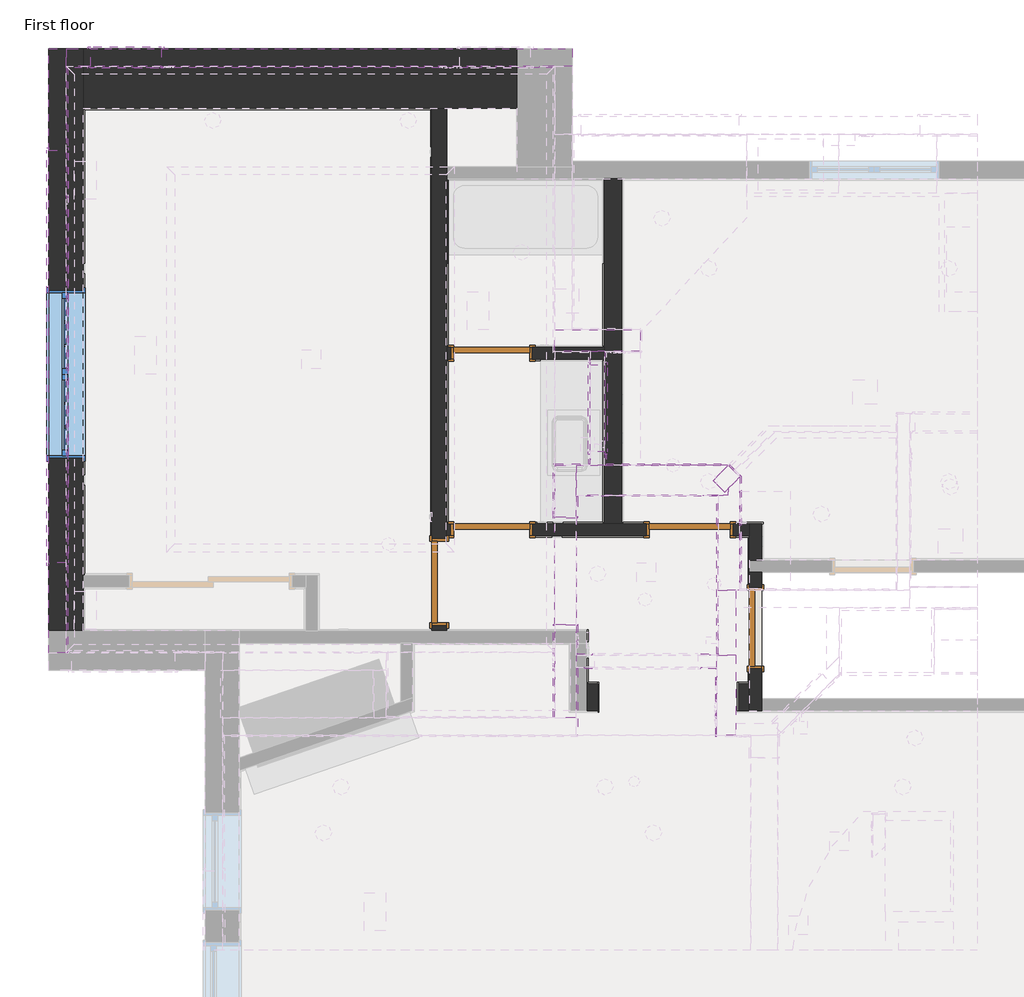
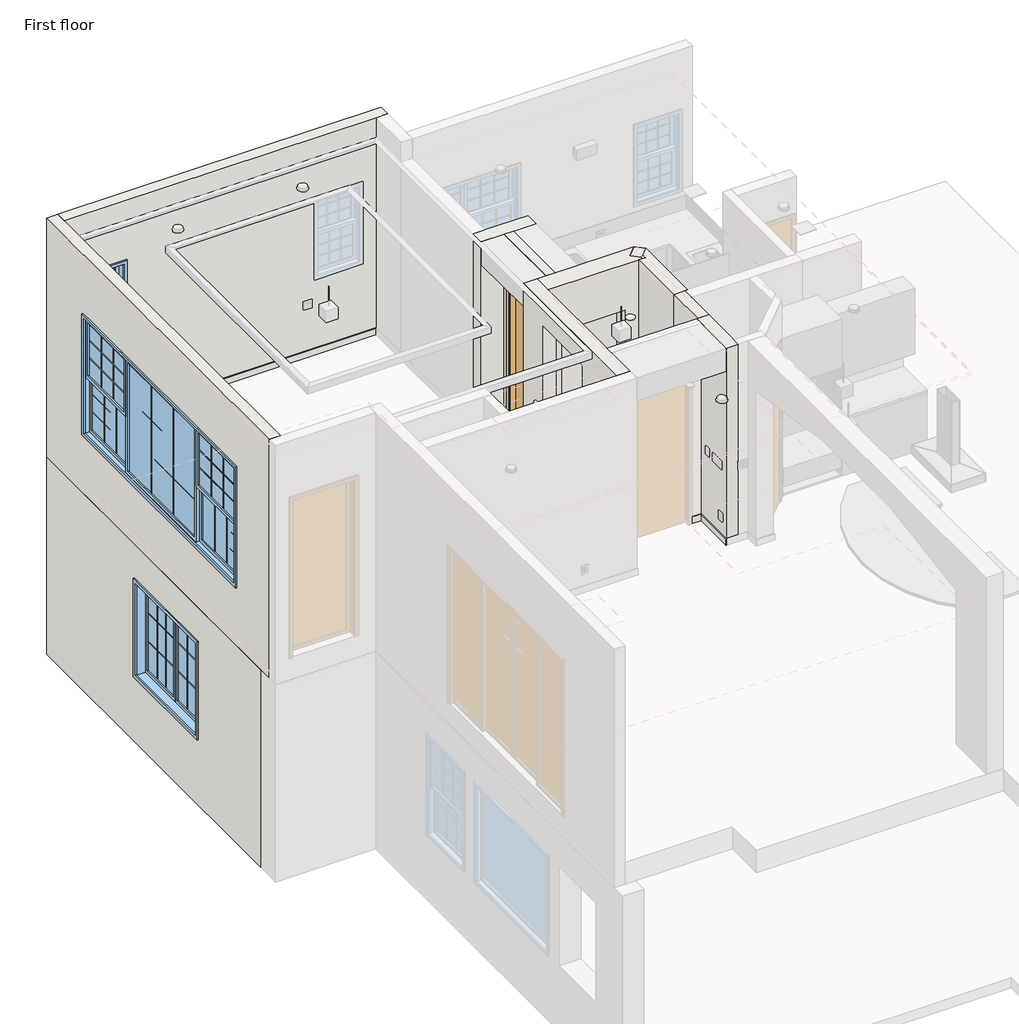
# One storey, part 2 of 14: 63 walls, 6 doors, 3 windows.
"""IFC4 building model written with IfcOpenShell, lengths in millimetres."""

from ifc_helpers import new_model, si_unit, frame, origin, origin_with_axes, place, context, project, spatial, polyline, outline, extrude, faceted_brep, transform, mapped, element, save
from components import door_ef8791e9, door_2bbe2976, door_43473639, door_a0381998, window_16cb1443, window_c90586ce, window_f9b8632c

model = new_model("IFC4")

# Units and contexts
model_context = context("Model", 3, world=origin())
ifc_project = project(units=[si_unit("LENGTHUNIT", "METRE", prefix="MILLI")], contexts=[model_context])

# Site, building, storey
site = spatial("IfcSite", under=ifc_project)
building = spatial("IfcBuilding", under=site)
storey = spatial("IfcBuildingStorey", under=building, Name="First floor", Elevation=0.0)

# Doors
placement = place(None, origin())
door_shape = door_ef8791e9(model_context)
element("IfcDoor", 1, ObjectType="C_Single Door : 2'-4\" X 8'-2\"", at=placement, inside=storey, context=model_context, shape_type="MappedRepresentation", body=[
    mapped(door_shape, transform((-44.45, 9855.2, 0.0), x_axis=(0.0, 1.0, 0.0), y_axis=(-1.0, 0.0, 0.0), z_axis=(0.0, 0.0, 1.0))),
])
element("IfcDoor", 2, ObjectType="C_Single Door : 2'-4\" X 8'-2\"", at=placement, inside=storey, context=model_context, shape_type="MappedRepresentation", body=[
    mapped(door_shape, transform((-2514.6, 10775.95, 0.0), x_axis=(1.0, 0.0, 0.0), y_axis=(0.0, 1.0, 0.0), z_axis=(0.0, 0.0, 1.0))),
])
element("IfcDoor", 3, ObjectType="C_Single Door : 2'-4\" X 8'-2\"", at=placement, inside=storey, context=model_context, shape_type="MappedRepresentation", body=[
    mapped(door_shape, transform((-2514.6, 12426.95, 0.0), x_axis=(1.0, 0.0, 0.0), y_axis=(0.0, 1.0, 0.0), z_axis=(0.0, 0.0, 1.0))),
])
door_2_shape = door_2bbe2976(model_context)
element("IfcDoor", 4, ObjectType="C_Single Door : 2'-6\" X 8'-0\"", at=placement, inside=storey, context=model_context, shape_type="MappedRepresentation", body=[
    mapped(door_2_shape, transform((-1524.0, 11912.4947939, 3251.2), x_axis=(0.0, 1.0, 0.0), y_axis=(-1.0, 0.0, 0.0), z_axis=(0.0, 0.0, 1.0))),
])
door_3_shape = door_43473639(model_context)
element("IfcDoor", 5, ObjectType="C_Single Door : 2'-6\" X 8'-2\"", at=placement, inside=storey, context=model_context, shape_type="MappedRepresentation", body=[
    mapped(door_3_shape, transform((-660.4, 10775.95, 0.0), x_axis=(1.0, 0.0, 0.0), y_axis=(0.0, 1.0, 0.0), z_axis=(0.0, 0.0, 1.0))),
])
door_4_shape = door_a0381998(model_context)
element("IfcDoor", 6, ObjectType="C_Single Door : 2'-6\" X 8'-2\"", at=placement, inside=storey, context=model_context, shape_type="MappedRepresentation", body=[
    mapped(door_4_shape, transform((-3003.55, 10287.0, 0.0), x_axis=(0.0, 1.0, 0.0), y_axis=(-1.0, 0.0, 0.0), z_axis=(0.0, 0.0, 1.0))),
])

# Walls
element("IfcWall", 7, ObjectType="Wall Border_T1", at=placement, inside=storey, context=model_context, shape_type="Brep", body=[
    faceted_brep([(-1511.3, 9067.8, 0.0), (-1511.3, 9347.2, 0.0), (-1511.3, 9347.2, 101.6), (-1511.3, 9067.8, 101.6), (-1524.0, 9067.8, 0.0), (-1524.0, 9067.8, 101.6), (-1524.0, 9080.5, 101.6), (-1524.0, 9334.5, 101.6), (-1524.0, 9347.2, 101.6), (-1524.0, 9347.2, 0.0), (-1524.0, 9334.5, 0.0), (-1524.0, 9080.5, 0.0)], [[[0, 1, 2, 3]], [[4, 5, 6, 7, 8, 9, 10, 11]], [[1, 0, 4, 11, 10, 9]], [[2, 1, 9, 8]], [[3, 2, 8, 7, 6, 5]], [[0, 3, 5, 4]]]),
])
element("IfcWall", 8, ObjectType="Wall Border_T1", at=placement, inside=storey, context=model_context, shape_type="SweptSolid", body=[
    extrude(outline(polyline([(-1612.9, 9347.2), (-1524.0, 9347.2), (-1524.0, 9334.5), (-1612.9, 9334.5), (-1612.9, 9347.2)])), origin_with_axes(), (0.0, 0.0, 1.0), 101.6),
])
element("IfcWall", 9, ObjectType="Wall Border_T1", at=placement, inside=storey, context=model_context, shape_type="Brep", body=[
    faceted_brep([(-1612.9, 9334.5, 0.0), (-1612.9, 9347.2, 0.0), (-1612.9, 9842.5, 0.0), (-1612.9, 9842.5, 101.6), (-1612.9, 9347.2, 101.6), (-1612.9, 9334.5, 101.6), (-1625.6, 9334.5, 0.0), (-1625.6, 9334.5, 101.6), (-1625.6, 9829.8, 101.6), (-1625.6, 9842.5, 101.6), (-1625.6, 9842.5, 0.0), (-1625.6, 9829.8, 0.0)], [[[0, 1, 2, 3, 4, 5]], [[6, 7, 8, 9, 10, 11]], [[2, 1, 0, 6, 11, 10]], [[3, 2, 10, 9]], [[5, 4, 3, 9, 8, 7]], [[0, 5, 7, 6]]]),
])
element("IfcWall", 10, ObjectType="Wall Border_T1", at=placement, inside=storey, context=model_context, shape_type="SweptSolid", body=[
    extrude(outline(polyline([(-114.3, 9347.2), (-114.3, 9448.8), (-101.6, 9448.8), (-101.6, 9347.2), (-114.3, 9347.2)])), origin_with_axes(), (0.0, 0.0, 1.0), 101.6),
])
element("IfcWall", 11, ObjectType="Wall Border_T1", at=placement, inside=storey, context=model_context, shape_type="Brep", body=[
    faceted_brep([(-101.6, 9347.2, 0.0), (-114.3, 9347.2, 0.0), (-203.2, 9347.2, 0.0), (-203.2, 9347.2, 101.6), (-114.3, 9347.2, 101.6), (-101.6, 9347.2, 101.6), (-101.6, 9334.5, 0.0), (-101.6, 9334.5, 101.6), (-203.2, 9334.5, 101.6), (-203.2, 9334.5, 0.0)], [[[0, 1, 2, 3, 4, 5]], [[6, 7, 8, 9]], [[2, 1, 0, 6, 9]], [[3, 2, 9, 8]], [[5, 4, 3, 8, 7]], [[0, 5, 7, 6]]]),
])
element("IfcWall", 12, ObjectType="Wall Border_T1", at=placement, inside=storey, context=model_context, shape_type="Brep", body=[
    faceted_brep([(-215.9, 9347.2, 0.0), (-215.9, 9080.5, 0.0), (-215.9, 9080.5, 101.6), (-215.9, 9347.2, 101.6), (-203.2, 9347.2, 0.0), (-203.2, 9347.2, 101.6), (-203.2, 9334.5, 101.6), (-203.2, 9080.5, 101.6), (-203.2, 9080.5, 0.0), (-203.2, 9334.5, 0.0)], [[[0, 1, 2, 3]], [[4, 5, 6, 7, 8, 9]], [[1, 0, 4, 9, 8]], [[2, 1, 8, 7]], [[3, 2, 7, 6, 5]], [[0, 3, 5, 4]]]),
])
element("IfcWall", 13, ObjectType="Wall Border_T1", at=placement, inside=storey, context=model_context, shape_type="Brep", body=[
    faceted_brep([(-3086.1, 14719.3, 0.0), (-6337.3, 14719.3, 0.0), (-6337.3, 14719.3, 101.6), (-3086.1, 14719.3, 101.6), (-3086.1, 14706.6, 0.0), (-3086.1, 14706.6, 101.6), (-6324.6, 14706.6, 101.6), (-6337.3, 14706.6, 101.6), (-6337.3, 14706.6, 0.0), (-6324.6, 14706.6, 0.0)], [[[0, 1, 2, 3]], [[4, 5, 6, 7, 8, 9]], [[1, 0, 4, 9, 8]], [[3, 2, 7, 6, 5]], [[2, 1, 8, 7]], [[0, 3, 5, 4]]]),
])
element("IfcWall", 14, ObjectType="Wall Border_T1", at=placement, inside=storey, context=model_context, shape_type="Brep", body=[
    faceted_brep([(-6324.6, 10350.5, 101.6), (-6324.6, 10350.5, 0.0), (-6324.6, 10363.2, 0.0), (-6324.6, 14706.6, 0.0), (-6324.6, 14706.6, 101.6), (-6324.6, 10363.2, 101.6), (-6337.3, 10350.5, 0.0), (-6337.3, 10350.5, 101.6), (-6337.3, 14706.6, 101.6), (-6337.3, 14706.6, 0.0)], [[[0, 1, 2, 3, 4, 5]], [[6, 7, 8, 9]], [[1, 6, 9, 3, 2]], [[7, 0, 5, 4, 8]], [[1, 0, 7, 6]], [[4, 3, 9, 8]]]),
])
element("IfcWall", 15, ObjectType="Wall Border_T1", at=placement, inside=storey, context=model_context, shape_type="Brep", body=[
    faceted_brep([(-3086.1, 14719.3, 0.0), (-3086.1, 14706.6, 0.0), (-3086.1, 10718.8, 0.0), (-3086.1, 10718.8, 101.6), (-3086.1, 14706.6, 101.6), (-3086.1, 14719.3, 101.6), (-3073.4, 14719.3, 0.0), (-3073.4, 14719.3, 101.6), (-3073.4, 10718.8, 101.6), (-3073.4, 10718.8, 0.0)], [[[0, 1, 2, 3, 4, 5]], [[6, 7, 8, 9]], [[2, 1, 0, 6, 9]], [[3, 2, 9, 8]], [[5, 4, 3, 8, 7]], [[0, 5, 7, 6]]]),
])
element("IfcWall", 16, ObjectType="Wall Border_T1", at=placement, inside=storey, context=model_context, shape_type="SweptSolid", body=[
    extrude(outline(polyline([(-1473.2, 13271.5), (-1460.5, 13271.5), (-1460.5, 12496.8), (-1473.2, 12496.8), (-1473.2, 13271.5)])), origin_with_axes(), (0.0, 0.0, 1.0), 101.6),
])
element("IfcWall", 17, ObjectType="Wall Border_T1", at=placement, inside=storey, context=model_context, shape_type="SweptSolid", body=[
    extrude(outline(polyline([(-2921.0, 13271.5), (-2921.0, 12484.1), (-2933.7, 12484.1), (-2933.7, 13271.5), (-2921.0, 13271.5)])), origin_with_axes(), (0.0, 0.0, 1.0), 101.6),
])
element("IfcWall", 18, ObjectType="Wall Border_T1", at=placement, inside=storey, context=model_context, shape_type="SweptSolid", body=[
    extrude(outline(polyline([(-2057.4, 12357.1), (-2108.2, 12357.1), (-2108.2, 12369.8), (-2057.4, 12369.8), (-2057.4, 12357.1)])), origin_with_axes(), (0.0, 0.0, 1.0), 101.6),
])
element("IfcWall", 19, ObjectType="Wall Border_T1", at=placement, inside=storey, context=model_context, shape_type="SweptSolid", body=[
    extrude(outline(polyline([(-2108.2, 10845.8), (-2057.4, 10845.8), (-2057.4, 10833.1), (-2108.2, 10833.1), (-2108.2, 10845.8)])), origin_with_axes(), (0.0, 0.0, 1.0), 101.6),
])
element("IfcWall", 20, ObjectType="Wall Border_T1", at=placement, inside=storey, context=model_context, shape_type="SweptSolid", body=[
    extrude(outline(polyline([(-2933.7, 10833.1), (-2933.7, 12369.8), (-2921.0, 12369.8), (-2921.0, 10833.1), (-2933.7, 10833.1)])), origin_with_axes(), (0.0, 0.0, 1.0), 101.6),
])
element("IfcWall", 21, ObjectType="Wall Border_T1", at=placement, inside=storey, context=model_context, shape_type="Brep", body=[
    faceted_brep([(25.4, 10845.8, 0.0), (-228.6, 10845.8, 0.0), (-228.6, 10845.8, 101.6), (25.4, 10845.8, 101.6), (25.4, 10833.1, 0.0), (25.4, 10833.1, 101.6), (12.7, 10833.1, 101.6), (-228.6, 10833.1, 101.6), (-228.6, 10833.1, 0.0), (12.7, 10833.1, 0.0)], [[[0, 1, 2, 3]], [[4, 5, 6, 7, 8, 9]], [[1, 0, 4, 9, 8]], [[2, 1, 8, 7]], [[3, 2, 7, 6, 5]], [[0, 3, 5, 4]]]),
])
element("IfcWall", 22, ObjectType="Wall Border_T1", at=placement, inside=storey, context=model_context, shape_type="SweptSolid", body=[
    extrude(outline(polyline([(-1092.2, 10845.8), (-1092.2, 10833.1), (-1282.7, 10833.1), (-1282.7, 10845.8), (-1092.2, 10845.8)])), origin_with_axes(), (0.0, 0.0, 1.0), 101.6),
])
element("IfcWall", 23, ObjectType="Wall Border_T1", at=placement, inside=storey, context=model_context, shape_type="SweptSolid", body=[
    extrude(outline(polyline([(-1092.2, 10706.1), (-2108.2, 10706.1), (-2108.2, 10718.8), (-1092.2, 10718.8), (-1092.2, 10706.1)])), origin_with_axes(), (0.0, 0.0, 1.0), 101.6),
])
element("IfcWall", 24, ObjectType="Wall Border_T1", at=placement, inside=storey, context=model_context, shape_type="Brep", body=[
    faceted_brep([(-228.6, 10706.1, 0.0), (-114.3, 10706.1, 0.0), (-101.6, 10706.1, 0.0), (-101.6, 10706.1, 101.6), (-114.3, 10706.1, 101.6), (-228.6, 10706.1, 101.6), (-228.6, 10718.8, 0.0), (-228.6, 10718.8, 101.6), (-101.6, 10718.8, 101.6), (-101.6, 10718.8, 0.0)], [[[0, 1, 2, 3, 4, 5]], [[6, 7, 8, 9]], [[2, 1, 0, 6, 9]], [[5, 4, 3, 8, 7]], [[0, 5, 7, 6]], [[3, 2, 9, 8]]]),
])
element("IfcWall", 25, ObjectType="Wall Border_T1", at=placement, inside=storey, context=model_context, shape_type="SweptSolid", body=[
    extrude(outline(polyline([(-114.3, 10261.6), (-114.3, 10706.1), (-101.6, 10706.1), (-101.6, 10261.6), (-114.3, 10261.6)])), origin_with_axes(), (0.0, 0.0, 1.0), 101.6),
])
element("IfcWall", 26, ObjectType="Wall Border_T1", at=placement, inside=storey, context=model_context, shape_type="SweptSolid", body=[
    extrude(outline(polyline([(-2933.7, 13271.5), (-2933.7, 14046.2), (-2921.0, 14046.2), (-2921.0, 13271.5), (-2933.7, 13271.5)])), origin_with_axes(), (0.0, 0.0, 1.0), 2565.4),
])
element("IfcWall", 27, ObjectType="Wall Border_T1", at=placement, inside=storey, context=model_context, shape_type="Brep", body=[
    faceted_brep([(-1936.75, 15113.0, 3251.2), (-6496.05, 15113.0, 3251.2), (-6496.05, 15113.0, 3352.8), (-1936.75, 15113.0, 3352.8), (-1936.75, 15100.3, 3251.2), (-1936.75, 15100.3, 3352.8), (-6483.35, 15100.3, 3352.8), (-6496.05, 15100.3, 3352.8), (-6496.05, 15100.3, 3251.2), (-6483.35, 15100.3, 3251.2)], [[[0, 1, 2, 3]], [[4, 5, 6, 7, 8, 9]], [[1, 0, 4, 9, 8]], [[3, 2, 7, 6, 5]], [[0, 3, 5, 4]], [[2, 1, 8, 7]]]),
])
element("IfcWall", 28, ObjectType="Wall Border_T1", at=placement, inside=storey, context=model_context, shape_type="Brep", body=[
    faceted_brep([(-6496.05, 15100.3, 3251.2), (-6496.05, 9626.6, 3251.2), (-6496.05, 9626.6, 3352.8), (-6496.05, 15100.3, 3352.8), (-6483.35, 15100.3, 3251.2), (-6483.35, 15100.3, 3352.8), (-6483.35, 9639.3, 3352.8), (-6483.35, 9626.6, 3352.8), (-6483.35, 9626.6, 3251.2), (-6483.35, 9639.3, 3251.2)], [[[0, 1, 2, 3]], [[4, 5, 6, 7, 8, 9]], [[1, 0, 4, 9, 8]], [[3, 2, 7, 6, 5]], [[0, 3, 5, 4]], [[2, 1, 8, 7]]]),
])
element("IfcWall", 29, ObjectType="Wall Border_T1", at=placement, inside=storey, context=model_context, shape_type="Brep", body=[
    faceted_brep([(-1708.15, 9893.3, 3251.2), (-1936.75, 9893.3, 3251.2), (-1936.75, 9893.3, 3352.8), (-1708.15, 9893.3, 3352.8), (-1708.15, 9880.6, 3251.2), (-1708.15, 9880.6, 3352.8), (-1720.85, 9880.6, 3352.8), (-1924.05, 9880.6, 3352.8), (-1936.75, 9880.6, 3352.8), (-1936.75, 9880.6, 3251.2), (-1924.05, 9880.6, 3251.2), (-1720.85, 9880.6, 3251.2)], [[[0, 1, 2, 3]], [[4, 5, 6, 7, 8, 9, 10, 11]], [[1, 0, 4, 11, 10, 9]], [[3, 2, 8, 7, 6, 5]], [[2, 1, 9, 8]], [[0, 3, 5, 4]]]),
])
element("IfcWall", 30, ObjectType="Wall Border_T1", at=placement, inside=storey, context=model_context, shape_type="Brep", body=[
    faceted_brep([(-1936.75, 9880.6, 3251.2), (-1936.75, 9029.7, 3251.2), (-1936.75, 9017.0, 3251.2), (-1936.75, 9017.0, 3352.8), (-1936.75, 9029.7, 3352.8), (-1936.75, 9880.6, 3352.8), (-1924.05, 9880.6, 3251.2), (-1924.05, 9880.6, 3352.8), (-1924.05, 9017.0, 3352.8), (-1924.05, 9017.0, 3251.2)], [[[0, 1, 2, 3, 4, 5]], [[6, 7, 8, 9]], [[2, 1, 0, 6, 9]], [[5, 4, 3, 8, 7]], [[0, 5, 7, 6]], [[3, 2, 9, 8]]]),
])
element("IfcWall", 31, ObjectType="Wall Border_T1", at=placement, inside=storey, context=model_context, shape_type="Brep", body=[
    faceted_brep([(-1574.8, 9613.9, 3251.2), (-1708.15, 9613.9, 3251.2), (-1720.85, 9613.9, 3251.2), (-1720.85, 9613.9, 3352.8), (-1708.15, 9613.9, 3352.8), (-1574.8, 9613.9, 3352.8), (-1574.8, 9601.2, 3251.2), (-1574.8, 9601.2, 3352.8), (-1720.85, 9601.2, 3352.8), (-1720.85, 9601.2, 3251.2)], [[[0, 1, 2, 3, 4, 5]], [[6, 7, 8, 9]], [[2, 1, 0, 6, 9]], [[5, 4, 3, 8, 7]], [[0, 5, 7, 6]], [[3, 2, 9, 8]]]),
])
element("IfcWall", 32, ObjectType="Wall Border_T1", at=placement, inside=storey, context=model_context, shape_type="SweptSolid", body=[
    extrude(outline(polyline([(-1708.15, 9880.6), (-1708.15, 9613.9), (-1720.85, 9613.9), (-1720.85, 9880.6), (-1708.15, 9880.6)])), frame((0.0, 0.0, 3251.2), z_axis=(0.0, 0.0, 1.0), x_axis=(1.0, 0.0, 0.0)), (0.0, 0.0, 1.0), 101.6),
])
element("IfcWall", 33, ObjectType="Wall Border_T1", at=placement, inside=storey, context=model_context, shape_type="Brep", body=[
    faceted_brep([(-558.8, 9601.2, 3251.2), (-393.7, 9601.2, 3251.2), (-393.7, 9601.2, 3352.8), (-558.8, 9601.2, 3352.8), (-558.8, 9613.9, 3251.2), (-558.8, 9613.9, 3352.8), (-406.4, 9613.9, 3352.8), (-393.7, 9613.9, 3352.8), (-393.7, 9613.9, 3251.2), (-406.4, 9613.9, 3251.2)], [[[0, 1, 2, 3]], [[4, 5, 6, 7, 8, 9]], [[1, 0, 4, 9, 8]], [[3, 2, 7, 6, 5]], [[0, 3, 5, 4]], [[2, 1, 8, 7]]]),
])
element("IfcWall", 34, ObjectType="Wall Border_T1", at=placement, inside=storey, context=model_context, shape_type="Brep", body=[
    faceted_brep([(-393.7, 9613.9, 3251.2), (-393.7, 11099.8, 3251.2), (-393.7, 11099.8, 3352.8), (-393.7, 9613.9, 3352.8), (-406.4, 9613.9, 3251.2), (-406.4, 9613.9, 3352.8), (-406.4, 11087.1, 3352.8), (-406.4, 11099.8, 3352.8), (-406.4, 11099.8, 3251.2), (-406.4, 11087.1, 3251.2)], [[[0, 1, 2, 3]], [[4, 5, 6, 7, 8, 9]], [[1, 0, 4, 9, 8]], [[3, 2, 7, 6, 5]], [[0, 3, 5, 4]], [[2, 1, 8, 7]]]),
])
element("IfcWall", 35, ObjectType="Wall Border_T1", at=placement, inside=storey, context=model_context, shape_type="Brep", body=[
    faceted_brep([(-406.4, 11099.8, 3251.2), (-1720.85, 11099.8, 3251.2), (-1720.85, 11099.8, 3352.8), (-406.4, 11099.8, 3352.8), (-406.4, 11087.1, 3251.2), (-406.4, 11087.1, 3352.8), (-1708.15, 11087.1, 3352.8), (-1720.85, 11087.1, 3352.8), (-1720.85, 11087.1, 3251.2), (-1708.15, 11087.1, 3251.2)], [[[0, 1, 2, 3]], [[4, 5, 6, 7, 8, 9]], [[1, 0, 4, 9, 8]], [[3, 2, 7, 6, 5]], [[0, 3, 5, 4]], [[2, 1, 8, 7]]]),
])
element("IfcWall", 36, ObjectType="Wall Border_T1", at=placement, inside=storey, context=model_context, shape_type="Brep", body=[
    faceted_brep([(-1936.75, 11391.9, 3251.2), (-1936.75, 10883.9, 3251.2), (-1936.75, 10883.9, 3352.8), (-1936.75, 11391.9, 3352.8), (-1924.05, 11391.9, 3251.2), (-1924.05, 11391.9, 3352.8), (-1924.05, 11379.2, 3352.8), (-1924.05, 10896.6, 3352.8), (-1924.05, 10883.9, 3352.8), (-1924.05, 10883.9, 3251.2), (-1924.05, 10896.6, 3251.2), (-1924.05, 11379.2, 3251.2)], [[[0, 1, 2, 3]], [[4, 5, 6, 7, 8, 9, 10, 11]], [[1, 0, 4, 11, 10, 9]], [[3, 2, 8, 7, 6, 5]], [[2, 1, 9, 8]], [[0, 3, 5, 4]]]),
])
element("IfcWall", 37, ObjectType="Wall Border_T1", at=placement, inside=storey, context=model_context, shape_type="Brep", body=[
    faceted_brep([(-1924.05, 10883.9, 3251.2), (-1708.15, 10883.9, 3251.2), (-1708.15, 10883.9, 3352.8), (-1924.05, 10883.9, 3352.8), (-1924.05, 10896.6, 3251.2), (-1924.05, 10896.6, 3352.8), (-1720.85, 10896.6, 3352.8), (-1708.15, 10896.6, 3352.8), (-1708.15, 10896.6, 3251.2), (-1720.85, 10896.6, 3251.2)], [[[0, 1, 2, 3]], [[4, 5, 6, 7, 8, 9]], [[1, 0, 4, 9, 8]], [[3, 2, 7, 6, 5]], [[0, 3, 5, 4]], [[2, 1, 8, 7]]]),
])
element("IfcWall", 38, ObjectType="Wall Border_T1", at=placement, inside=storey, context=model_context, shape_type="SweptSolid", body=[
    extrude(outline(polyline([(-1708.15, 11087.1), (-1708.15, 10896.6), (-1720.85, 10896.6), (-1720.85, 11087.1), (-1708.15, 11087.1)])), frame((0.0, 0.0, 3251.2), z_axis=(0.0, 0.0, 1.0), x_axis=(1.0, 0.0, 0.0)), (0.0, 0.0, 1.0), 101.6),
])
element("IfcWall", 39, ObjectType="Wall Border_T1", at=placement, inside=storey, context=model_context, shape_type="Brep", body=[
    faceted_brep([(-1606.55, 11480.6947939, 3251.2), (-1606.55, 11391.9, 3251.2), (-1606.55, 11379.2, 3251.2), (-1606.55, 11379.2, 3352.8), (-1606.55, 11391.9, 3352.8), (-1606.55, 11480.6947939, 3352.8), (-1593.85, 11480.6947939, 3251.2), (-1593.85, 11480.6947939, 3352.8), (-1593.85, 11379.2, 3352.8), (-1593.85, 11379.2, 3251.2)], [[[0, 1, 2, 3, 4, 5]], [[6, 7, 8, 9]], [[2, 1, 0, 6, 9]], [[5, 4, 3, 8, 7]], [[0, 5, 7, 6]], [[3, 2, 9, 8]]]),
])
element("IfcWall", 40, ObjectType="Wall Border_T1", at=placement, inside=storey, context=model_context, shape_type="SweptSolid", body=[
    extrude(outline(polyline([(-1924.05, 11391.9), (-1606.55, 11391.9), (-1606.55, 11379.2), (-1924.05, 11379.2), (-1924.05, 11391.9)])), frame((0.0, 0.0, 3251.2), z_axis=(0.0, 0.0, 1.0), x_axis=(1.0, 0.0, 0.0)), (0.0, 0.0, 1.0), 101.6),
])
element("IfcWall", 41, ObjectType="Wall Border_T1", at=placement, inside=storey, context=model_context, shape_type="Brep", body=[
    faceted_brep([(-1454.15, 11480.6947939, 3251.2), (-1454.15, 11379.2, 3251.2), (-1454.15, 11379.2, 3352.8), (-1454.15, 11480.6947939, 3352.8), (-1441.45, 11480.6947939, 3251.2), (-1441.45, 11480.6947939, 3352.8), (-1441.45, 11391.9, 3352.8), (-1441.45, 11379.2, 3352.8), (-1441.45, 11379.2, 3251.2), (-1441.45, 11391.9, 3251.2)], [[[0, 1, 2, 3]], [[4, 5, 6, 7, 8, 9]], [[1, 0, 4, 9, 8]], [[3, 2, 7, 6, 5]], [[0, 3, 5, 4]], [[2, 1, 8, 7]]]),
])
element("IfcWall", 42, ObjectType="Wall Border_T1", at=placement, inside=storey, context=model_context, shape_type="Brep", body=[
    faceted_brep([(-1441.45, 11379.2, 3251.2), (-298.45, 11379.2, 3251.2), (-280.4894878, 11379.2, 3251.2), (-280.4894878, 11379.2, 3352.8), (-1441.45, 11379.2, 3352.8), (-1441.45, 11391.9, 3251.2), (-1441.45, 11391.9, 3352.8), (-293.1894878, 11391.9, 3352.8), (-293.1894878, 11391.9, 3251.2)], [[[0, 1, 2, 3, 4]], [[5, 6, 7, 8]], [[2, 1, 0, 5, 8]], [[4, 3, 7, 6]], [[0, 4, 6, 5]], [[3, 2, 8, 7]]]),
])
element("IfcWall", 43, ObjectType="Wall Border_T1", at=placement, inside=storey, context=model_context, shape_type="Brep", body=[
    faceted_brep([(-177.8, 10223.5, 3251.2), (-177.8, 11276.5105122, 3251.2), (-177.8, 11276.5105122, 5715.0), (-177.8, 10223.5, 5715.0), (-190.5, 10223.5, 3251.2), (-190.5, 10223.5, 5715.0), (-190.5, 11271.25, 5715.0), (-190.5, 11289.2105122, 5715.0), (-190.5, 11289.2105122, 3251.2), (-190.5, 11271.25, 3251.2)], [[[0, 1, 2, 3]], [[4, 5, 6, 7, 8, 9]], [[1, 0, 4, 9, 8]], [[3, 2, 7, 6, 5]], [[0, 3, 5, 4]], [[2, 1, 8, 7]]]),
])
element("IfcWall", 44, ObjectType="Wall Border_T1", at=placement, inside=storey, context=model_context, shape_type="Brep", body=[
    faceted_brep([(-190.5, 11289.2105122, 3251.2), (-280.4894878, 11379.2, 3251.2), (-280.4894878, 11379.2, 3352.8), (-280.4894878, 11379.2, 5715.0), (-190.5, 11289.2105122, 5715.0), (-190.5, 11271.25, 3251.2), (-190.5, 11271.25, 5715.0), (-298.45, 11379.2, 5715.0), (-298.45, 11379.2, 3251.2)], [[[0, 1, 2, 3, 4]], [[5, 6, 7, 8]], [[1, 0, 5, 8]], [[4, 3, 7, 6]], [[0, 4, 6, 5]], [[3, 2, 1, 8, 7]]]),
])
element("IfcWall", 45, ObjectType="Wall Border_T1", at=placement, inside=storey, context=model_context, shape_type="Brep", body=[
    faceted_brep([(-1708.15, 8851.9, 3251.2), (-1708.15, 9474.2, 3251.2), (-1708.15, 9486.9, 3251.2), (-1708.15, 9486.9, 3352.8), (-1708.15, 9474.2, 3352.8), (-1708.15, 8851.9, 3352.8), (-1720.85, 8851.9, 3251.2), (-1720.85, 8851.9, 3352.8), (-1720.85, 9486.9, 3352.8), (-1720.85, 9486.9, 3251.2)], [[[0, 1, 2, 3, 4, 5]], [[6, 7, 8, 9]], [[2, 1, 0, 6, 9]], [[5, 4, 3, 8, 7]], [[0, 5, 7, 6]], [[3, 2, 9, 8]]]),
])
element("IfcWall", 46, ObjectType="Wall Border_T1", at=placement, inside=storey, context=model_context, shape_type="SweptSolid", body=[
    extrude(outline(polyline([(-1574.8, 9474.2), (-1708.15, 9474.2), (-1708.15, 9486.9), (-1574.8, 9486.9), (-1574.8, 9474.2)])), frame((0.0, 0.0, 3251.2), z_axis=(0.0, 0.0, 1.0), x_axis=(1.0, 0.0, 0.0)), (0.0, 0.0, 1.0), 101.6),
])
element("IfcWall", 47, ObjectType="Wall Border_T1", at=placement, inside=storey, context=model_context, shape_type="Brep", body=[
    faceted_brep([(-558.8, 9474.2, 3251.2), (-419.1, 9474.2, 3251.2), (-406.4, 9474.2, 3251.2), (-406.4, 9474.2, 3352.8), (-419.1, 9474.2, 3352.8), (-558.8, 9474.2, 3352.8), (-558.8, 9486.9, 3251.2), (-558.8, 9486.9, 3352.8), (-406.4, 9486.9, 3352.8), (-406.4, 9486.9, 3251.2)], [[[0, 1, 2, 3, 4, 5]], [[6, 7, 8, 9]], [[2, 1, 0, 6, 9]], [[5, 4, 3, 8, 7]], [[0, 5, 7, 6]], [[3, 2, 9, 8]]]),
])
element("IfcWall", 48, ObjectType="Wall Border_T1", at=placement, inside=storey, context=model_context, shape_type="Brep", body=[
    faceted_brep([(-419.1, 9474.2, 3251.2), (-419.1, 8839.2, 3251.2), (-419.1, 8839.2, 3352.8), (-419.1, 9474.2, 3352.8), (-406.4, 9474.2, 3251.2), (-406.4, 9474.2, 3352.8), (-406.4, 8851.9, 3352.8), (-406.4, 8839.2, 3352.8), (-406.4, 8839.2, 3251.2), (-406.4, 8851.9, 3251.2)], [[[0, 1, 2, 3]], [[4, 5, 6, 7, 8, 9]], [[1, 0, 4, 9, 8]], [[3, 2, 7, 6, 5]], [[0, 3, 5, 4]], [[2, 1, 8, 7]]]),
])
element("IfcWall", 49, ObjectType="Wall Border_T1", at=placement, inside=storey, context=model_context, shape_type="Brep", body=[
    faceted_brep([(-1473.2, 12357.1, 838.2), (-1473.2, 10845.8, 838.2), (-1473.2, 10833.1, 838.2), (-1473.2, 10833.1, 939.8), (-1473.2, 10845.8, 939.8), (-1473.2, 12357.1, 939.8), (-1460.5, 12357.1, 838.2), (-1460.5, 12357.1, 939.8), (-1460.5, 10833.1, 939.8), (-1460.5, 10833.1, 838.2)], [[[0, 1, 2, 3, 4, 5]], [[6, 7, 8, 9]], [[2, 1, 0, 6, 9]], [[5, 4, 3, 8, 7]], [[0, 5, 7, 6]], [[3, 2, 9, 8]]]),
])
element("IfcWall", 50, ObjectType="Wall Border_T1", at=placement, inside=storey, context=model_context, shape_type="SweptSolid", body=[
    extrude(outline(polyline([(-2057.4, 10845.8), (-1473.2, 10845.8), (-1473.2, 10833.1), (-2057.4, 10833.1), (-2057.4, 10845.8)])), frame((0.0, 0.0, 838.2), z_axis=(0.0, 0.0, 1.0), x_axis=(1.0, 0.0, 0.0)), (0.0, 0.0, 1.0), 101.6),
])
element("IfcWall", 51, ObjectType="Wall_1' 10\"", at=placement, inside=storey, context=model_context, shape_type="SweptSolid", body=[
    extrude(outline(polyline([(-6337.3, 15278.1), (-2279.65, 15278.1), (-2279.65, 14719.3), (-6337.3, 14719.3), (-6337.3, 15278.1)])), frame((0.0, 0.0, -152.4), z_axis=(0.0, 0.0, 1.0), x_axis=(1.0, 0.0, 0.0)), (0.0, 0.0, 1.0), 3060.7),
])
element("IfcWall", 52, ObjectType="Wall_1' 3/4\"", at=placement, inside=storey, context=model_context, shape_type="Brep", body=[
    faceted_brep([(-6337.3, 9829.8, 2908.3), (-6337.3, 9829.8, -152.4), (-6337.3, 14719.3, -152.4), (-6337.3, 15278.1, -152.4), (-6337.3, 15278.1, 2908.3), (-6337.3, 14719.3, 2908.3), (-6337.3, 13017.5, 2362.2), (-6337.3, 13017.5, 889.0), (-6337.3, 11442.7, 889.0), (-6337.3, 11442.7, 2362.2), (-6661.15, 9829.8, -152.4), (-6661.15, 9829.8, 2908.3), (-6661.15, 15278.1, 2908.3), (-6661.15, 15278.1, -152.4), (-6661.15, 13017.5, 2362.2), (-6661.15, 11442.7, 2362.2), (-6661.15, 11442.7, 889.0), (-6661.15, 13017.5, 889.0)], [[[0, 1, 2, 3, 4, 5], [6, 7, 8, 9]], [[10, 11, 12, 13], [14, 15, 16, 17]], [[3, 2, 1, 10, 13]], [[0, 5, 4, 12, 11]], [[4, 3, 13, 12]], [[0, 11, 10, 1]], [[15, 14, 6, 9]], [[16, 15, 9, 8]], [[17, 16, 8, 7]], [[14, 17, 7, 6]]]),
])
element("IfcWall", 53, ObjectType="Wall_10\"", at=placement, inside=storey, context=model_context, shape_type="SweptSolid", body=[
    extrude(outline(polyline([(2565.4, -101.6), (2565.4, -1625.6), (0.0, -1625.6), (0.0, -1524.0), (2387.6, -1524.0), (2387.6, -203.2), (0.0, -203.2), (0.0, -101.6), (2565.4, -101.6)])), frame((0.0, 9080.5, 0.0), z_axis=(0.0, 1.0, 0.0), x_axis=(0.0, 0.0, 1.0)), (0.0, 0.0, 1.0), 254.0),
])
element("IfcWall", 54, ObjectType="Wall_11\"", at=placement, inside=storey, context=model_context, shape_type="Brep", body=[
    faceted_brep([(-1720.85, 11099.8, 3251.2), (-393.7, 11099.8, 3251.2), (-298.45, 11099.8, 3251.2), (-298.45, 11099.8, 6299.2), (-393.7, 11099.8, 6299.2), (-1720.85, 11099.8, 6299.2), (-596.9, 11099.8, 5588.0), (-596.9, 11099.8, 4114.8), (-1517.65, 11099.8, 4114.8), (-1517.65, 11099.8, 5588.0), (-298.45, 11379.2, 3251.2), (-1454.15, 11379.2, 3251.2), (-1593.85, 11379.2, 3251.2), (-1720.85, 11379.2, 3251.2), (-1720.85, 11379.2, 6299.2), (-1593.85, 11379.2, 6299.2), (-1454.15, 11379.2, 6299.2), (-298.45, 11379.2, 6299.2), (-442.1340979, 11235.5159021, 3251.2), (-334.1840979, 11127.5659021, 3251.2), (-298.45, 11163.3, 3251.2), (-298.45, 11163.3, 6299.2), (-334.1840979, 11127.5659021, 6299.2), (-442.1340979, 11235.5159021, 6299.2), (-596.9, 11303.0, 5588.0), (-1517.65, 11303.0, 5588.0), (-1517.65, 11303.0, 4114.8), (-596.9, 11303.0, 4114.8)], [[[0, 1, 2, 3, 4, 5], [6, 7, 8, 9]], [[10, 11, 12, 13, 14, 15, 16, 17]], [[2, 1, 0, 13, 12, 11, 10, 18, 19, 20]], [[3, 2, 20, 21]], [[5, 4, 3, 21, 22, 23, 17, 16, 15, 14]], [[0, 5, 14, 13]], [[22, 19, 18, 23]], [[19, 22, 21, 20]], [[23, 18, 10, 17]], [[24, 25, 26, 27]], [[24, 27, 7, 6]], [[27, 26, 8, 7]], [[26, 25, 9, 8]], [[25, 24, 6, 9]]]),
])
element("IfcWall", 55, ObjectType="Wall_4.5\"", at=placement, inside=storey, context=model_context, shape_type="Brep", body=[
    faceted_brep([(-101.6, 10375.9, 2908.3), (-101.6, 10375.9, -152.4), (-101.6, 9080.5, -152.4), (-101.6, 9080.5, 0.0), (-101.6, 9080.5, 2565.4), (-101.6, 9080.5, 2908.3), (-101.6, 9474.2, 0.0), (-101.6, 10236.2, 0.0), (-101.6, 10236.2, 2514.6), (-101.6, 9474.2, 2514.6), (12.7, 10375.9, -152.4), (12.7, 10375.9, 2908.3), (12.7, 9194.8, 2908.3), (12.7, 9080.5, 2908.3), (12.7, 9080.5, -152.4), (12.7, 9194.8, -152.4), (12.7, 9474.2, 0.0), (12.7, 9474.2, 2514.6), (12.7, 10236.2, 2514.6), (12.7, 10236.2, 0.0)], [[[0, 1, 2, 3, 4, 5], [6, 7, 8, 9]], [[10, 11, 12, 13, 14, 15], [16, 17, 18, 19]], [[2, 1, 10, 15, 14]], [[0, 5, 13, 12, 11]], [[2, 14, 13, 5, 4, 3]], [[0, 11, 10, 1]], [[7, 6, 16, 19]], [[8, 7, 19, 18]], [[9, 8, 18, 17]], [[6, 9, 17, 16]]]),
])
element("IfcWall", 56, ObjectType="Wall_4.5\"", at=placement, inside=storey, context=model_context, shape_type="Brep", body=[
    faceted_brep([(12.7, 10490.2, 0.0), (12.7, 10833.1, 0.0), (12.7, 10833.1, 2565.4), (12.7, 10490.2, 2565.4), (-101.6, 10490.2, 0.0), (-101.6, 10490.2, 2565.4), (-101.6, 10718.8, 2565.4), (-101.6, 10833.1, 2565.4), (-101.6, 10833.1, 0.0), (-101.6, 10718.8, 0.0)], [[[0, 1, 2, 3]], [[4, 5, 6, 7, 8, 9]], [[1, 0, 4, 9, 8]], [[3, 2, 7, 6, 5]], [[0, 3, 5, 4]], [[2, 1, 8, 7]]]),
])
element("IfcWall", 57, ObjectType="Wall_4.5\"", at=placement, inside=storey, context=model_context, shape_type="Brep", body=[
    faceted_brep([(-1066.8, 10833.1, 0.0), (-1295.4, 10833.1, 0.0), (-1460.5, 10833.1, 0.0), (-2133.6, 10833.1, 0.0), (-2133.6, 10833.1, 2514.6), (-2895.6, 10833.1, 2514.6), (-2895.6, 10833.1, 0.0), (-2933.7, 10833.1, 0.0), (-2933.7, 10833.1, 2565.4), (-1460.5, 10833.1, 2565.4), (-1295.4, 10833.1, 2565.4), (-101.6, 10833.1, 2565.4), (-101.6, 10833.1, 0.0), (-254.0, 10833.1, 0.0), (-254.0, 10833.1, 2514.6), (-1066.8, 10833.1, 2514.6), (-2133.6, 10718.8, 2514.6), (-2133.6, 10718.8, 0.0), (-1066.8, 10718.8, 0.0), (-1066.8, 10718.8, 2514.6), (-254.0, 10718.8, 2514.6), (-254.0, 10718.8, 0.0), (-101.6, 10718.8, 0.0), (-101.6, 10718.8, 2565.4), (-2933.7, 10718.8, 2565.4), (-2933.7, 10718.8, 0.0), (-2895.6, 10718.8, 0.0), (-2895.6, 10718.8, 2514.6)], [[[0, 1, 2, 3, 4, 5, 6, 7, 8, 9, 10, 11, 12, 13, 14, 15]], [[16, 17, 18, 19, 20, 21, 22, 23, 24, 25, 26, 27]], [[22, 21, 13, 12]], [[26, 25, 7, 6]], [[18, 17, 3, 2, 1, 0]], [[11, 10, 9, 8, 24, 23]], [[12, 11, 23, 22]], [[8, 7, 25, 24]], [[14, 13, 21, 20]], [[15, 14, 20, 19]], [[0, 15, 19, 18]], [[4, 3, 17, 16]], [[5, 4, 16, 27]], [[6, 5, 27, 26]]]),
])
element("IfcWall", 58, ObjectType="Wall_4.5\"", at=placement, inside=storey, context=model_context, shape_type="SweptSolid", body=[
    extrude(outline(polyline([(2514.6, -2133.6), (0.0, -2133.6), (0.0, -1460.5), (2565.4, -1460.5), (2565.4, -2933.7), (0.0, -2933.7), (0.0, -2895.6), (2514.6, -2895.6), (2514.6, -2133.6)])), frame((0.0, 12369.8, 0.0), z_axis=(0.0, 1.0, 0.0), x_axis=(0.0, 0.0, 1.0)), (0.0, 0.0, 1.0), 114.3),
])
element("IfcWall", 59, ObjectType="Wall_5.5\"", at=placement, inside=storey, context=model_context, shape_type="SweptSolid", body=[
    extrude(outline(polyline([(12445.8947939, 3251.2), (12318.8947939, 3251.2), (12318.8947939, 5715.0), (11506.0947939, 5715.0), (11506.0947939, 3251.2), (11379.2, 3251.2), (11379.2, 6299.2), (12445.8947939, 6299.2), (12445.8947939, 3251.2)])), frame((-1593.85, 0.0, 0.0), z_axis=(1.0, 0.0, 0.0), x_axis=(0.0, 1.0, 0.0)), (0.0, 0.0, 1.0), 139.7),
])
element("IfcWall", 60, ObjectType="Wall_5.5\"", at=placement, inside=storey, context=model_context, shape_type="Brep", body=[
    faceted_brep([(-3073.4, 14719.3, 0.0), (-3073.4, 10693.4, 0.0), (-3073.4, 10693.4, 2514.6), (-3073.4, 9880.6, 2514.6), (-3073.4, 9880.6, 0.0), (-3073.4, 9829.8, 0.0), (-3073.4, 9829.8, 2565.4), (-3073.4, 14719.3, 2565.4), (-2933.7, 10693.4, 2514.6), (-2933.7, 10693.4, 0.0), (-2933.7, 10718.8, 0.0), (-2933.7, 10833.1, 0.0), (-2933.7, 12369.8, 0.0), (-2933.7, 12484.1, 0.0), (-2933.7, 14058.9, 0.0), (-2933.7, 14173.2, 0.0), (-2933.7, 14719.3, 0.0), (-2933.7, 14719.3, 2565.4), (-2933.7, 14173.2, 2565.4), (-2933.7, 14058.9, 2565.4), (-2933.7, 12484.1, 2565.4), (-2933.7, 12369.8, 2565.4), (-2933.7, 10833.1, 2565.4), (-2933.7, 10718.8, 2565.4), (-2933.7, 9829.8, 2565.4), (-2933.7, 9829.8, 0.0), (-2933.7, 9880.6, 0.0), (-2933.7, 9880.6, 2514.6)], [[[0, 1, 2, 3, 4, 5, 6, 7]], [[8, 9, 10, 11, 12, 13, 14, 15, 16, 17, 18, 19, 20, 21, 22, 23, 24, 25, 26, 27]], [[26, 25, 5, 4]], [[16, 15, 14, 13, 12, 11, 10, 9, 1, 0]], [[7, 6, 24, 23, 22, 21, 20, 19, 18, 17]], [[6, 5, 25, 24]], [[0, 7, 17, 16]], [[2, 1, 9, 8]], [[3, 2, 8, 27]], [[4, 3, 27, 26]]]),
])
element("IfcWall", 61, ObjectType="Wall_6.5\"", at=placement, inside=storey, context=model_context, shape_type="Brep", body=[
    faceted_brep([(-6496.05, 9626.6, 2908.3), (-6496.05, 15113.0, 2908.3), (-6496.05, 15278.1, 2908.3), (-6496.05, 15278.1, 6604.0), (-6496.05, 15113.0, 6604.0), (-6496.05, 9626.6, 6604.0), (-6496.05, 14325.6, 5670.55), (-6496.05, 14325.6, 3841.75), (-6496.05, 10464.8, 3841.75), (-6496.05, 10464.8, 5670.55), (-6661.15, 9626.6, 2908.3), (-6661.15, 9626.6, 6604.0), (-6661.15, 15278.1, 6604.0), (-6661.15, 15278.1, 2908.3), (-6661.15, 14325.6, 5670.55), (-6661.15, 10464.8, 5670.55), (-6661.15, 10464.8, 3841.75), (-6661.15, 14325.6, 3841.75)], [[[0, 1, 2, 3, 4, 5], [6, 7, 8, 9]], [[10, 11, 12, 13], [14, 15, 16, 17]], [[2, 1, 0, 10, 13]], [[5, 4, 3, 12, 11]], [[0, 5, 11, 10]], [[3, 2, 13, 12]], [[15, 14, 6, 9]], [[16, 15, 9, 8]], [[17, 16, 8, 7]], [[14, 17, 7, 6]]]),
])
element("IfcWall", 62, ObjectType="Wall_6.5\"", at=placement, inside=storey, context=model_context, shape_type="Brep", body=[
    faceted_brep([(-6496.05, 15113.0, 2908.3), (-1924.05, 15113.0, 2908.3), (-1758.95, 15113.0, 2908.3), (-1758.95, 15113.0, 6604.0), (-1924.05, 15113.0, 6604.0), (-6496.05, 15113.0, 6604.0), (-2813.05, 15113.0, 5664.2), (-2152.65, 15113.0, 5664.2), (-2152.65, 15113.0, 4445.0), (-2813.05, 15113.0, 4445.0), (-6267.45, 15113.0, 5664.2), (-5607.05, 15113.0, 5664.2), (-5607.05, 15113.0, 4445.0), (-6267.45, 15113.0, 4445.0), (-1758.95, 15278.1, 2908.3), (-6496.05, 15278.1, 2908.3), (-6496.05, 15278.1, 6604.0), (-1758.95, 15278.1, 6604.0), (-2152.65, 15278.1, 5664.2), (-2813.05, 15278.1, 5664.2), (-2813.05, 15278.1, 4445.0), (-2152.65, 15278.1, 4445.0), (-5607.05, 15278.1, 5664.2), (-6267.45, 15278.1, 5664.2), (-6267.45, 15278.1, 4445.0), (-5607.05, 15278.1, 4445.0)], [[[0, 1, 2, 3, 4, 5], [6, 7, 8, 9], [10, 11, 12, 13]], [[14, 15, 16, 17], [18, 19, 20, 21], [22, 23, 24, 25]], [[2, 1, 0, 15, 14]], [[5, 4, 3, 17, 16]], [[0, 5, 16, 15]], [[3, 2, 14, 17]], [[18, 7, 6, 19]], [[19, 6, 9, 20]], [[20, 9, 8, 21]], [[7, 18, 21, 8]], [[22, 11, 10, 23]], [[23, 10, 13, 24]], [[24, 13, 12, 25]], [[11, 22, 25, 12]]]),
])
element("IfcWall", 63, ObjectType="Wall_6.5\"", at=placement, inside=storey, context=model_context, shape_type="Brep", body=[
    faceted_brep([(-228.6, 9601.2, 6299.2), (-228.6, 9601.2, 3251.2), (-228.6, 10045.7, 3251.2), (-228.6, 10210.8, 3251.2), (-228.6, 10210.8, 6299.2), (-228.6, 10045.7, 6299.2), (-393.7, 9601.2, 3251.2), (-393.7, 9601.2, 6299.2), (-393.7, 10210.8, 6299.2), (-393.7, 10210.8, 3251.2)], [[[0, 1, 2, 3, 4, 5]], [[6, 7, 8, 9]], [[3, 2, 1, 6, 9]], [[0, 5, 4, 8, 7]], [[4, 3, 9, 8]], [[0, 7, 6, 1]]]),
])
element("IfcWall", 64, ObjectType="Wall_6.5\"", at=placement, inside=storey, context=model_context, shape_type="Brep", body=[
    faceted_brep([(-1295.4, 10833.1, 0.0), (-1295.4, 14058.9, 0.0), (-1295.4, 14058.9, 2565.4), (-1295.4, 10833.1, 2565.4), (-1460.5, 10833.1, 0.0), (-1460.5, 10833.1, 2565.4), (-1460.5, 12369.8, 2565.4), (-1460.5, 12484.1, 2565.4), (-1460.5, 14058.9, 2565.4), (-1460.5, 14058.9, 0.0), (-1460.5, 12484.1, 0.0), (-1460.5, 12369.8, 0.0)], [[[0, 1, 2, 3]], [[4, 5, 6, 7, 8, 9, 10, 11]], [[1, 0, 4, 11, 10, 9]], [[3, 2, 8, 7, 6, 5]], [[2, 1, 9, 8]], [[0, 3, 5, 4]]]),
])
element("IfcWall", 65, ObjectType="Wall_7\"", at=placement, inside=storey, context=model_context, shape_type="Brep", body=[
    faceted_brep([(-228.6, 8851.9, 3251.2), (-228.6, 8966.2, 3251.2), (-228.6, 9601.2, 3251.2), (-228.6, 9601.2, 6299.2), (-228.6, 8966.2, 6299.2), (-228.6, 8851.9, 6299.2), (-406.4, 8851.9, 3251.2), (-406.4, 8851.9, 6299.2), (-406.4, 9486.9, 6299.2), (-406.4, 9601.2, 6299.2), (-406.4, 9601.2, 3251.2), (-406.4, 9486.9, 3251.2), (-406.4, 9474.2, 3251.2), (-393.7, 9601.2, 3251.2), (-393.7, 9601.2, 6299.2)], [[[0, 1, 2, 3, 4, 5]], [[6, 7, 8, 9, 10, 11, 12]], [[2, 1, 0, 6, 12, 11, 10, 13]], [[5, 4, 3, 14, 9, 8, 7]], [[0, 5, 7, 6]], [[2, 13, 10, 9, 14, 3]]]),
])
element("IfcWall", 66, ObjectType="Wall_8\"", at=placement, inside=storey, context=model_context, shape_type="Brep", body=[
    faceted_brep([(-1720.85, 11379.2, 6299.2), (-1720.85, 11099.8, 6299.2), (-1720.85, 9601.2, 6299.2), (-1720.85, 9486.9, 6299.2), (-1720.85, 9017.0, 6299.2), (-1720.85, 9017.0, 3251.2), (-1720.85, 9486.9, 3251.2), (-1720.85, 9601.2, 3251.2), (-1720.85, 9880.6, 3251.2), (-1720.85, 9880.6, 5943.6), (-1720.85, 10896.6, 5943.6), (-1720.85, 10896.6, 3251.2), (-1720.85, 11099.8, 3251.2), (-1720.85, 11379.2, 3251.2), (-1924.05, 9017.0, 6299.2), (-1924.05, 11379.2, 6299.2), (-1924.05, 11379.2, 3251.2), (-1924.05, 10896.6, 3251.2), (-1924.05, 10896.6, 5943.6), (-1924.05, 9880.6, 5943.6), (-1924.05, 9880.6, 3251.2), (-1924.05, 9017.0, 3251.2)], [[[0, 1, 2, 3, 4, 5, 6, 7, 8, 9, 10, 11, 12, 13]], [[14, 15, 16, 17, 18, 19, 20, 21]], [[5, 4, 14, 21]], [[0, 13, 16, 15]], [[16, 13, 12, 11, 17]], [[5, 21, 20, 8, 7, 6]], [[4, 3, 2, 1, 0, 15, 14]], [[10, 18, 17, 11]], [[18, 10, 9, 19]], [[19, 9, 8, 20]]]),
])
element("IfcWall", 67, ObjectType="Wall_8\"", at=placement, inside=storey, context=model_context, shape_type="Brep", body=[
    faceted_brep([(-1123.95, 12649.0947939, 3251.2), (-1758.95, 12649.0947939, 3251.2), (-1924.05, 12649.0947939, 3251.2), (-1924.05, 12649.0947939, 6299.2), (-1758.95, 12649.0947939, 6299.2), (-1123.95, 12649.0947939, 6299.2), (-1123.95, 12649.0947939, 3352.8), (-1123.95, 12445.8947939, 3251.2), (-1123.95, 12445.8947939, 3352.8), (-1123.95, 12445.8947939, 6299.2), (-1454.15, 12445.8947939, 6299.2), (-1593.85, 12445.8947939, 6299.2), (-1924.05, 12445.8947939, 6299.2), (-1924.05, 12445.8947939, 3251.2), (-1593.85, 12445.8947939, 3251.2), (-1454.15, 12445.8947939, 3251.2)], [[[0, 1, 2, 3, 4, 5, 6]], [[7, 8, 9, 10, 11, 12, 13, 14, 15]], [[2, 1, 0, 7, 15, 14, 13]], [[5, 4, 3, 12, 11, 10, 9]], [[3, 2, 13, 12]], [[0, 6, 5, 9, 8, 7]]]),
])
element("IfcWall", 68, ObjectType="Wall_8\"", at=placement, inside=storey, context=model_context, shape_type="Brep", body=[
    faceted_brep([(-442.1340979, 11235.5159021, 3251.2), (-334.1840979, 11127.5659021, 3251.2), (-334.1840979, 11127.5659021, 6299.2), (-442.1340979, 11235.5159021, 6299.2), (-298.45, 11379.2, 3251.2), (-298.45, 11379.2, 6299.2), (-190.5, 11271.25, 6299.2), (-190.5, 11271.25, 3251.2), (-298.45, 11163.3, 3251.2), (-298.45, 11163.3, 6299.2)], [[[0, 1, 2, 3]], [[4, 5, 6, 7]], [[1, 0, 4, 7, 8]], [[2, 1, 8, 7, 6, 9]], [[3, 2, 9, 6, 5]], [[0, 3, 5, 4]]]),
])
element("IfcWall", 69, ObjectType="Wall_8\"", at=placement, inside=storey, context=model_context, shape_type="Brep", body=[
    faceted_brep([(-393.7, 10210.8, 3251.2), (-393.7, 10210.8, 6299.2), (-393.7, 11099.8, 6299.2), (-393.7, 11099.8, 3251.2), (-190.5, 10210.8, 3251.2), (-190.5, 11271.25, 3251.2), (-190.5, 11271.25, 6299.2), (-190.5, 10210.8, 6299.2), (-228.6, 10210.8, 3251.2), (-298.45, 11099.8, 3251.2), (-298.45, 11163.3, 3251.2), (-298.45, 11163.3, 6299.2), (-298.45, 11099.8, 6299.2), (-228.6, 10210.8, 6299.2)], [[[0, 1, 2, 3]], [[4, 5, 6, 7]], [[5, 4, 8, 0, 3, 9, 10]], [[7, 6, 11, 12, 2, 1, 13]], [[1, 0, 8, 4, 7, 13]], [[6, 5, 10, 11]], [[12, 9, 3, 2]], [[9, 12, 11, 10]]]),
])

# Windows
window_shape = window_16cb1443(model_context)
element("IfcWindow", 70, ObjectType="C_Atypical Window 6 : 12'-6\" X 5'-10\"", at=placement, inside=storey, context=model_context, shape_type="MappedRepresentation", body=[
    mapped(window_shape, transform((-6578.6, 12395.2, 3054.35), x_axis=(0.0, -1.0, 0.0), y_axis=(1.0, 0.0, 0.0), z_axis=(0.0, 0.0, 1.0))),
])
window_2_shape = window_c90586ce(model_context)
element("IfcWindow", 71, ObjectType="C_Window Guilotine : 2'-0\" X 3'-10\"", at=placement, inside=storey, context=model_context, shape_type="MappedRepresentation", body=[
    mapped(window_2_shape, transform((-5937.25, 15195.55, 3657.6), x_axis=(-1.0, 0.0, 0.0), y_axis=(0.0, -1.0, 0.0), z_axis=(0.0, 0.0, 1.0))),
])
window_3_shape = window_f9b8632c(model_context)
element("IfcWindow", 72, ObjectType="C_Double Window : 5'-0\" X 4'-8\"", at=placement, inside=storey, context=model_context, shape_type="MappedRepresentation", body=[
    mapped(window_3_shape, transform((-6499.225, 12230.1, 0.0), x_axis=(0.0, -1.0, 0.0), y_axis=(1.0, 0.0, 0.0), z_axis=(0.0, 0.0, 1.0))),
])

save(model, "model.ifc")
